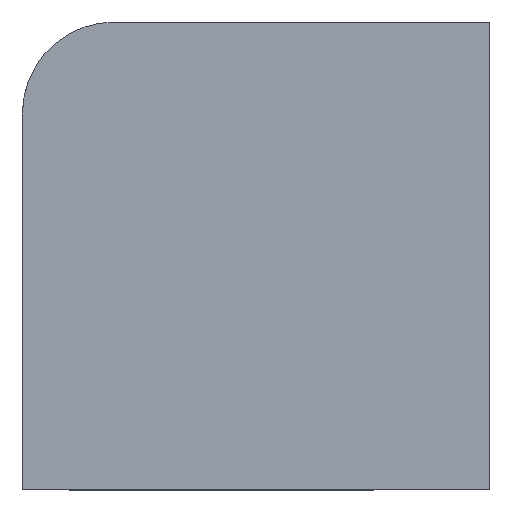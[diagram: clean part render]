
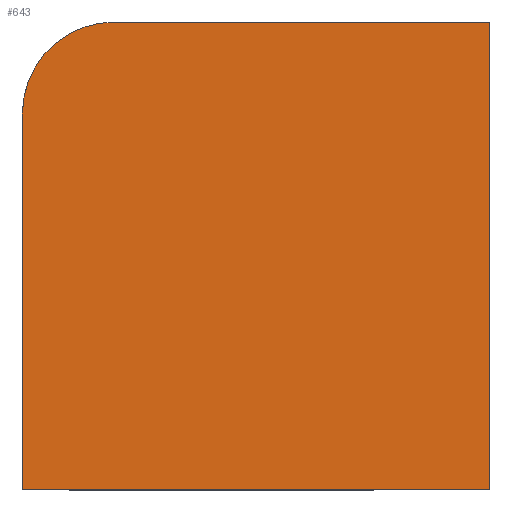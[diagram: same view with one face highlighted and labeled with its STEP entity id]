
A CAD part, top view. The second image highlights one B-rep face of the part: STEP entity #643.
In plain terms, the highlighted planar face has unit normal (0, 0, 1).
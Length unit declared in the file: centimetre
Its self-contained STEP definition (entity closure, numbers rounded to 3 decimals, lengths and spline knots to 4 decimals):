
#1 = EDGE_CURVE ( 'NONE', #476, #816, #774, .T. ) ;
#32 = EDGE_LOOP ( 'NONE', ( #1145, #275, #119, #229, #720 ) ) ;
#62 = PLANE ( 'NONE',  #706 ) ;
#78 = DIRECTION ( 'NONE',  ( 1., 0., 0. ) ) ;
#113 = CARTESIAN_POINT ( 'NONE',  ( 0., 803.0718, 1000. ) ) ;
#119 = ORIENTED_EDGE ( 'NONE', *, *, #903, .T. ) ;
#182 = CARTESIAN_POINT ( 'NONE',  ( 1000., 1000., 1000. ) ) ;
#207 = DIRECTION ( 'NONE',  ( 0., -1., 0. ) ) ;
#229 = ORIENTED_EDGE ( 'NONE', *, *, #257, .T. ) ;
#257 = EDGE_CURVE ( 'NONE', #579, #682, #279, .T. ) ;
#275 = ORIENTED_EDGE ( 'NONE', *, *, #1, .T. ) ;
#279 = LINE ( 'NONE', #634, #865 ) ;
#331 = EDGE_CURVE ( 'NONE', #682, #1101, #617, .T. ) ;
#338 = DIRECTION ( 'NONE',  ( 1., 0., 0. ) ) ;
#352 = VECTOR ( 'NONE', #597, 100. ) ;
#422 = DIRECTION ( 'NONE',  ( 0., 0., 1. ) ) ;
#476 = VERTEX_POINT ( 'NONE', #1011 ) ;
#541 = VECTOR ( 'NONE', #207, 100. ) ;
#579 = VERTEX_POINT ( 'NONE', #951 ) ;
#597 = DIRECTION ( 'NONE',  ( -1., 0., 0. ) ) ;
#617 = LINE ( 'NONE', #182, #1038 ) ;
#620 = DIRECTION ( 'NONE',  ( 1., 0., 0. ) ) ;
#634 = CARTESIAN_POINT ( 'NONE',  ( 0., 0., 1000. ) ) ;
#643 = ADVANCED_FACE ( 'NONE', ( #854 ), #62, .T. ) ;
#681 = CARTESIAN_POINT ( 'NONE',  ( 1000., 1000., 1000. ) ) ;
#682 = VERTEX_POINT ( 'NONE', #1112 ) ;
#706 = AXIS2_PLACEMENT_3D ( 'NONE', #773, #422, #338 ) ;
#720 = ORIENTED_EDGE ( 'NONE', *, *, #331, .T. ) ;
#734 = LINE ( 'NONE', #1003, #541 ) ;
#741 = AXIS2_PLACEMENT_3D ( 'NONE', #981, #962, #620 ) ;
#768 = CARTESIAN_POINT ( 'NONE',  ( 0., 1000., 1000. ) ) ;
#773 = CARTESIAN_POINT ( 'NONE',  ( 0., 0., 1000. ) ) ;
#774 = CIRCLE ( 'NONE', #741, 196.9282 ) ;
#816 = VERTEX_POINT ( 'NONE', #113 ) ;
#854 = FACE_OUTER_BOUND ( 'NONE', #32, .T. ) ;
#865 = VECTOR ( 'NONE', #78, 100. ) ;
#876 = DIRECTION ( 'NONE',  ( 0., 1., 0. ) ) ;
#903 = EDGE_CURVE ( 'NONE', #816, #579, #734, .T. ) ;
#951 = CARTESIAN_POINT ( 'NONE',  ( 0., 0., 1000. ) ) ;
#962 = DIRECTION ( 'NONE',  ( 0., 0., 1. ) ) ;
#981 = CARTESIAN_POINT ( 'NONE',  ( 196.9282, 803.0718, 1000. ) ) ;
#1003 = CARTESIAN_POINT ( 'NONE',  ( 0., 1000., 1000. ) ) ;
#1011 = CARTESIAN_POINT ( 'NONE',  ( 196.9282, 1000., 1000. ) ) ;
#1038 = VECTOR ( 'NONE', #876, 100. ) ;
#1096 = EDGE_CURVE ( 'NONE', #1101, #476, #1134, .T. ) ;
#1101 = VERTEX_POINT ( 'NONE', #681 ) ;
#1112 = CARTESIAN_POINT ( 'NONE',  ( 1000., 0., 1000. ) ) ;
#1134 = LINE ( 'NONE', #768, #352 ) ;
#1145 = ORIENTED_EDGE ( 'NONE', *, *, #1096, .T. ) ;
